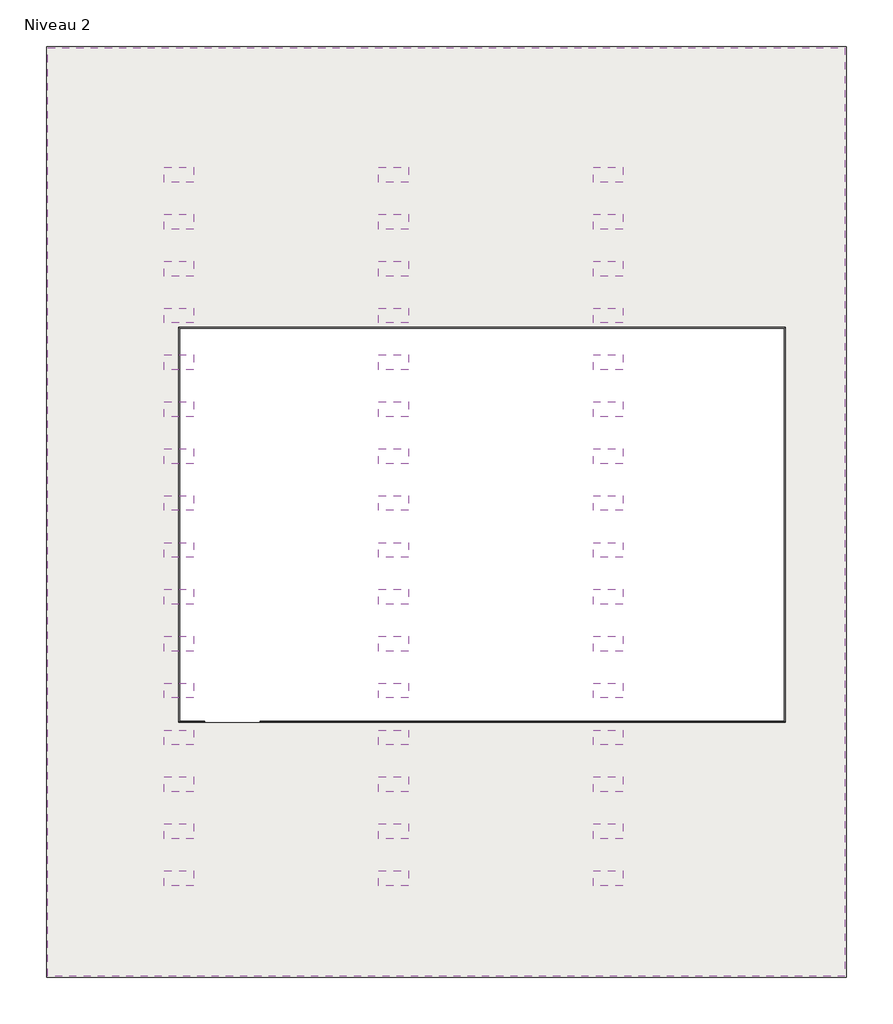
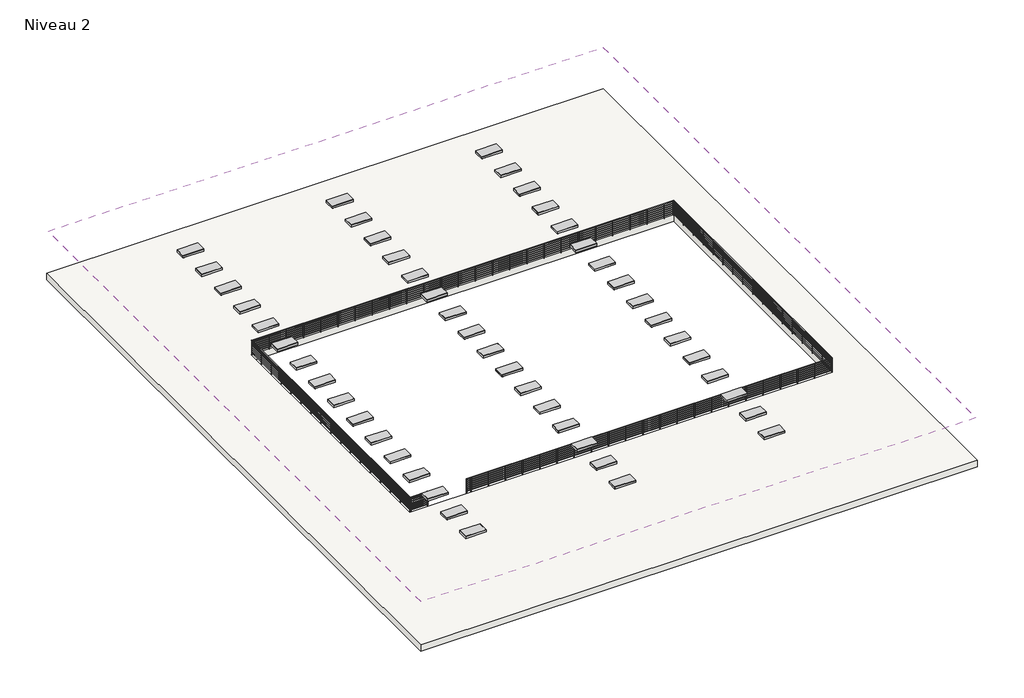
# One storey: 48 light fixtures, 1 covering, 1 railing, 1 slab.
"""IFC4 building model written with IfcOpenShell, lengths in millimetres."""

from ifc_helpers import new_model, si_unit, frame, origin, place, context, project, spatial, polyline, outline, extrude, transform, mapped, element, save
from components import light_fixture_e156559b, railing_b7095c67, railing_4ebeea9c, railing_9d34a361

model = new_model("IFC4")

# Units and contexts
model_context = context("Model", 3, world=origin())
ifc_project = project(units=[si_unit("LENGTHUNIT", "METRE", prefix="MILLI")], contexts=[model_context])

# Site, building, storey
site = spatial("IfcSite", under=ifc_project)
building = spatial("IfcBuilding", under=site)
storey = spatial("IfcBuildingStorey", under=building, Name="Niveau 2", Elevation=4000.0)

# Covering
placement = place(None, origin())
element("IfcCovering", 1, ObjectType="Quadrillage 600 x 1200 mm", at=placement, inside=storey, context=model_context, shape_type="SweptSolid", body=[
    extrude(outline(polyline([(-11908.1712982, 18211.3994283), (20401.8287018, 18211.3994283), (20401.8287018, -19398.6005717), (-11908.1712982, -19398.6005717), (-11908.1712982, 18211.3994283)]), holes=[polyline([(-5996.3562653, -15130.6199607), (-7196.3562653, -15130.6199607), (-7196.3562653, -15730.6199607), (-5996.3562653, -15730.6199607), (-5996.3562653, -15130.6199607)]), polyline([(-5996.3562653, -13230.6199607), (-7196.3562653, -13230.6199607), (-7196.3562653, -13830.6199607), (-5996.3562653, -13830.6199607), (-5996.3562653, -13230.6199607)]), polyline([(-5996.3562653, 1969.3800393), (-7196.3562653, 1969.3800393), (-7196.3562653, 1369.3800393), (-5996.3562653, 1369.3800393), (-5996.3562653, 1969.3800393)]), polyline([(-5996.3562653, 69.3800393), (-7196.3562653, 69.3800393), (-7196.3562653, -530.6199607), (-5996.3562653, -530.6199607), (-5996.3562653, 69.3800393)]), polyline([(-5996.3562653, -1830.6199607), (-7196.3562653, -1830.6199607), (-7196.3562653, -2430.6199607), (-5996.3562653, -2430.6199607), (-5996.3562653, -1830.6199607)]), polyline([(-5996.3562653, -3730.6199607), (-7196.3562653, -3730.6199607), (-7196.3562653, -4330.6199607), (-5996.3562653, -4330.6199607), (-5996.3562653, -3730.6199607)]), polyline([(-5996.3562653, -5630.6199607), (-7196.3562653, -5630.6199607), (-7196.3562653, -6230.6199607), (-5996.3562653, -6230.6199607), (-5996.3562653, -5630.6199607)]), polyline([(-5996.3562653, -7530.6199607), (-7196.3562653, -7530.6199607), (-7196.3562653, -8130.6199607), (-5996.3562653, -8130.6199607), (-5996.3562653, -7530.6199607)]), polyline([(-5996.3562653, -9430.6199607), (-7196.3562653, -9430.6199607), (-7196.3562653, -10030.6199607), (-5996.3562653, -10030.6199607), (-5996.3562653, -9430.6199607)]), polyline([(-5996.3562653, -11330.6199607), (-7196.3562653, -11330.6199607), (-7196.3562653, -11930.6199607), (-5996.3562653, -11930.6199607), (-5996.3562653, -11330.6199607)]), polyline([(-5996.3562653, 5769.3800393), (-7196.3562653, 5769.3800393), (-7196.3562653, 5169.3800393), (-5996.3562653, 5169.3800393), (-5996.3562653, 5769.3800393)]), polyline([(-5996.3562653, 3869.3800393), (-7196.3562653, 3869.3800393), (-7196.3562653, 3269.3800393), (-5996.3562653, 3269.3800393), (-5996.3562653, 3869.3800393)]), polyline([(-5996.3562653, 13369.3800393), (-7196.3562653, 13369.3800393), (-7196.3562653, 12769.3800393), (-5996.3562653, 12769.3800393), (-5996.3562653, 13369.3800393)]), polyline([(-5996.3562653, 11469.3800393), (-7196.3562653, 11469.3800393), (-7196.3562653, 10869.3800393), (-5996.3562653, 10869.3800393), (-5996.3562653, 11469.3800393)]), polyline([(-5996.3562653, 9569.3800393), (-7196.3562653, 9569.3800393), (-7196.3562653, 8969.3800393), (-5996.3562653, 8969.3800393), (-5996.3562653, 9569.3800393)]), polyline([(-5996.3562653, 7669.3800393), (-7196.3562653, 7669.3800393), (-7196.3562653, 7069.3800393), (-5996.3562653, 7069.3800393), (-5996.3562653, 7669.3800393)]), polyline([(2703.6437347, -15130.6199607), (1503.6437347, -15130.6199607), (1503.6437347, -15730.6199607), (2703.6437347, -15730.6199607), (2703.6437347, -15130.6199607)]), polyline([(2703.6437347, -13230.6199607), (1503.6437347, -13230.6199607), (1503.6437347, -13830.6199607), (2703.6437347, -13830.6199607), (2703.6437347, -13230.6199607)]), polyline([(2703.6437347, -11330.6199607), (1503.6437347, -11330.6199607), (1503.6437347, -11930.6199607), (2703.6437347, -11930.6199607), (2703.6437347, -11330.6199607)]), polyline([(2703.6437347, -9430.6199607), (1503.6437347, -9430.6199607), (1503.6437347, -10030.6199607), (2703.6437347, -10030.6199607), (2703.6437347, -9430.6199607)]), polyline([(2703.6437347, -7530.6199607), (1503.6437347, -7530.6199607), (1503.6437347, -8130.6199607), (2703.6437347, -8130.6199607), (2703.6437347, -7530.6199607)]), polyline([(2703.6437347, -5630.6199607), (1503.6437347, -5630.6199607), (1503.6437347, -6230.6199607), (2703.6437347, -6230.6199607), (2703.6437347, -5630.6199607)]), polyline([(2703.6437347, -3730.6199607), (1503.6437347, -3730.6199607), (1503.6437347, -4330.6199607), (2703.6437347, -4330.6199607), (2703.6437347, -3730.6199607)]), polyline([(2703.6437347, -1830.6199607), (1503.6437347, -1830.6199607), (1503.6437347, -2430.6199607), (2703.6437347, -2430.6199607), (2703.6437347, -1830.6199607)]), polyline([(2703.6437347, 69.3800393), (1503.6437347, 69.3800393), (1503.6437347, -530.6199607), (2703.6437347, -530.6199607), (2703.6437347, 69.3800393)]), polyline([(2703.6437347, 1969.3800393), (1503.6437347, 1969.3800393), (1503.6437347, 1369.3800393), (2703.6437347, 1369.3800393), (2703.6437347, 1969.3800393)]), polyline([(2703.6437347, 3869.3800393), (1503.6437347, 3869.3800393), (1503.6437347, 3269.3800393), (2703.6437347, 3269.3800393), (2703.6437347, 3869.3800393)]), polyline([(2703.6437347, 5769.3800393), (1503.6437347, 5769.3800393), (1503.6437347, 5169.3800393), (2703.6437347, 5169.3800393), (2703.6437347, 5769.3800393)]), polyline([(2703.6437347, 7669.3800393), (1503.6437347, 7669.3800393), (1503.6437347, 7069.3800393), (2703.6437347, 7069.3800393), (2703.6437347, 7669.3800393)]), polyline([(2703.6437347, 9569.3800393), (1503.6437347, 9569.3800393), (1503.6437347, 8969.3800393), (2703.6437347, 8969.3800393), (2703.6437347, 9569.3800393)]), polyline([(2703.6437347, 11469.3800393), (1503.6437347, 11469.3800393), (1503.6437347, 10869.3800393), (2703.6437347, 10869.3800393), (2703.6437347, 11469.3800393)]), polyline([(2703.6437347, 13369.3800393), (1503.6437347, 13369.3800393), (1503.6437347, 12769.3800393), (2703.6437347, 12769.3800393), (2703.6437347, 13369.3800393)]), polyline([(11403.6437347, -15130.6199607), (10203.6437347, -15130.6199607), (10203.6437347, -15730.6199607), (11403.6437347, -15730.6199607), (11403.6437347, -15130.6199607)]), polyline([(11403.6437347, -13230.6199607), (10203.6437347, -13230.6199607), (10203.6437347, -13830.6199607), (11403.6437347, -13830.6199607), (11403.6437347, -13230.6199607)]), polyline([(11403.6437347, -11330.6199607), (10203.6437347, -11330.6199607), (10203.6437347, -11930.6199607), (11403.6437347, -11930.6199607), (11403.6437347, -11330.6199607)]), polyline([(11403.6437347, -9430.6199607), (10203.6437347, -9430.6199607), (10203.6437347, -10030.6199607), (11403.6437347, -10030.6199607), (11403.6437347, -9430.6199607)]), polyline([(11403.6437347, -7530.6199607), (10203.6437347, -7530.6199607), (10203.6437347, -8130.6199607), (11403.6437347, -8130.6199607), (11403.6437347, -7530.6199607)]), polyline([(11403.6437347, -5630.6199607), (10203.6437347, -5630.6199607), (10203.6437347, -6230.6199607), (11403.6437347, -6230.6199607), (11403.6437347, -5630.6199607)]), polyline([(11403.6437347, -3730.6199607), (10203.6437347, -3730.6199607), (10203.6437347, -4330.6199607), (11403.6437347, -4330.6199607), (11403.6437347, -3730.6199607)]), polyline([(11403.6437347, -1830.6199607), (10203.6437347, -1830.6199607), (10203.6437347, -2430.6199607), (11403.6437347, -2430.6199607), (11403.6437347, -1830.6199607)]), polyline([(11403.6437347, 69.3800393), (10203.6437347, 69.3800393), (10203.6437347, -530.6199607), (11403.6437347, -530.6199607), (11403.6437347, 69.3800393)]), polyline([(11403.6437347, 1969.3800393), (10203.6437347, 1969.3800393), (10203.6437347, 1369.3800393), (11403.6437347, 1369.3800393), (11403.6437347, 1969.3800393)]), polyline([(11403.6437347, 3869.3800393), (10203.6437347, 3869.3800393), (10203.6437347, 3269.3800393), (11403.6437347, 3269.3800393), (11403.6437347, 3869.3800393)]), polyline([(11403.6437347, 5769.3800393), (10203.6437347, 5769.3800393), (10203.6437347, 5169.3800393), (11403.6437347, 5169.3800393), (11403.6437347, 5769.3800393)]), polyline([(11403.6437347, 7669.3800393), (10203.6437347, 7669.3800393), (10203.6437347, 7069.3800393), (11403.6437347, 7069.3800393), (11403.6437347, 7669.3800393)]), polyline([(11403.6437347, 9569.3800393), (10203.6437347, 9569.3800393), (10203.6437347, 8969.3800393), (11403.6437347, 8969.3800393), (11403.6437347, 9569.3800393)]), polyline([(11403.6437347, 11469.3800393), (10203.6437347, 11469.3800393), (10203.6437347, 10869.3800393), (11403.6437347, 10869.3800393), (11403.6437347, 11469.3800393)]), polyline([(11403.6437347, 13369.3800393), (10203.6437347, 13369.3800393), (10203.6437347, 12769.3800393), (11403.6437347, 12769.3800393), (11403.6437347, 13369.3800393)])]), frame((0.0, 0.0, 6600.0), z_axis=(0.0, 0.0, 1.0), x_axis=(1.0, 0.0, 0.0)), (0.0, 0.0, 1.0), 52.0),
])

# Light fixtures
light_fixture_shape = light_fixture_e156559b(model_context)
element("IfcLightFixture", 2, ObjectType="M_Encastré-Rectangulaire parabolique : 0600 x 1200 mm (2 lampes)", at=placement, inside=storey, context=model_context, shape_type="MappedRepresentation", body=[
    mapped(light_fixture_shape, transform((-6577.6527637, -15371.1540286, 4161.6), x_axis=(1.0, 0.0, 0.0), y_axis=(0.0, 1.0, 0.0), z_axis=(0.0, 0.0, 1.0))),
])
element("IfcLightFixture", 3, ObjectType="M_Encastré-Rectangulaire parabolique : 0600 x 1200 mm (2 lampes)", at=placement, inside=storey, context=model_context, shape_type="MappedRepresentation", body=[
    mapped(light_fixture_shape, transform((-6577.6527637, -13471.1540286, 4161.6), x_axis=(1.0, 0.0, 0.0), y_axis=(0.0, 1.0, 0.0), z_axis=(0.0, 0.0, 1.0))),
])
element("IfcLightFixture", 4, ObjectType="M_Encastré-Rectangulaire parabolique : 0600 x 1200 mm (2 lampes)", at=placement, inside=storey, context=model_context, shape_type="MappedRepresentation", body=[
    mapped(light_fixture_shape, transform((-6577.6527637, -11571.1540286, 4161.6), x_axis=(1.0, 0.0, 0.0), y_axis=(0.0, 1.0, 0.0), z_axis=(0.0, 0.0, 1.0))),
])
element("IfcLightFixture", 5, ObjectType="M_Encastré-Rectangulaire parabolique : 0600 x 1200 mm (2 lampes)", at=placement, inside=storey, context=model_context, shape_type="MappedRepresentation", body=[
    mapped(light_fixture_shape, transform((-6577.6527637, -9671.1540286, 4161.6), x_axis=(1.0, 0.0, 0.0), y_axis=(0.0, 1.0, 0.0), z_axis=(0.0, 0.0, 1.0))),
])
element("IfcLightFixture", 6, ObjectType="M_Encastré-Rectangulaire parabolique : 0600 x 1200 mm (2 lampes)", at=placement, inside=storey, context=model_context, shape_type="MappedRepresentation", body=[
    mapped(light_fixture_shape, transform((-6577.6527637, -7771.1540286, 4161.6), x_axis=(1.0, 0.0, 0.0), y_axis=(0.0, 1.0, 0.0), z_axis=(0.0, 0.0, 1.0))),
])
element("IfcLightFixture", 7, ObjectType="M_Encastré-Rectangulaire parabolique : 0600 x 1200 mm (2 lampes)", at=placement, inside=storey, context=model_context, shape_type="MappedRepresentation", body=[
    mapped(light_fixture_shape, transform((-6577.6527637, -5871.1540286, 4161.6), x_axis=(1.0, 0.0, 0.0), y_axis=(0.0, 1.0, 0.0), z_axis=(0.0, 0.0, 1.0))),
])
element("IfcLightFixture", 8, ObjectType="M_Encastré-Rectangulaire parabolique : 0600 x 1200 mm (2 lampes)", at=placement, inside=storey, context=model_context, shape_type="MappedRepresentation", body=[
    mapped(light_fixture_shape, transform((-6577.6527637, -3971.1540286, 4161.6), x_axis=(1.0, 0.0, 0.0), y_axis=(0.0, 1.0, 0.0), z_axis=(0.0, 0.0, 1.0))),
])
element("IfcLightFixture", 9, ObjectType="M_Encastré-Rectangulaire parabolique : 0600 x 1200 mm (2 lampes)", at=placement, inside=storey, context=model_context, shape_type="MappedRepresentation", body=[
    mapped(light_fixture_shape, transform((-6577.6527637, -2071.1540286, 4161.6), x_axis=(1.0, 0.0, 0.0), y_axis=(0.0, 1.0, 0.0), z_axis=(0.0, 0.0, 1.0))),
])
element("IfcLightFixture", 10, ObjectType="M_Encastré-Rectangulaire parabolique : 0600 x 1200 mm (2 lampes)", at=placement, inside=storey, context=model_context, shape_type="MappedRepresentation", body=[
    mapped(light_fixture_shape, transform((-6577.6527637, -171.1540286, 4161.6), x_axis=(1.0, 0.0, 0.0), y_axis=(0.0, 1.0, 0.0), z_axis=(0.0, 0.0, 1.0))),
])
element("IfcLightFixture", 11, ObjectType="M_Encastré-Rectangulaire parabolique : 0600 x 1200 mm (2 lampes)", at=placement, inside=storey, context=model_context, shape_type="MappedRepresentation", body=[
    mapped(light_fixture_shape, transform((-6577.6527637, 1728.8459714, 4161.6), x_axis=(1.0, 0.0, 0.0), y_axis=(0.0, 1.0, 0.0), z_axis=(0.0, 0.0, 1.0))),
])
element("IfcLightFixture", 12, ObjectType="M_Encastré-Rectangulaire parabolique : 0600 x 1200 mm (2 lampes)", at=placement, inside=storey, context=model_context, shape_type="MappedRepresentation", body=[
    mapped(light_fixture_shape, transform((-6577.6527637, 3628.8459714, 4161.6), x_axis=(1.0, 0.0, 0.0), y_axis=(0.0, 1.0, 0.0), z_axis=(0.0, 0.0, 1.0))),
])
element("IfcLightFixture", 13, ObjectType="M_Encastré-Rectangulaire parabolique : 0600 x 1200 mm (2 lampes)", at=placement, inside=storey, context=model_context, shape_type="MappedRepresentation", body=[
    mapped(light_fixture_shape, transform((-6577.6527637, 5528.8459714, 4161.6), x_axis=(1.0, 0.0, 0.0), y_axis=(0.0, 1.0, 0.0), z_axis=(0.0, 0.0, 1.0))),
])
element("IfcLightFixture", 14, ObjectType="M_Encastré-Rectangulaire parabolique : 0600 x 1200 mm (2 lampes)", at=placement, inside=storey, context=model_context, shape_type="MappedRepresentation", body=[
    mapped(light_fixture_shape, transform((-6577.6527637, 7428.8459714, 4161.6), x_axis=(1.0, 0.0, 0.0), y_axis=(0.0, 1.0, 0.0), z_axis=(0.0, 0.0, 1.0))),
])
element("IfcLightFixture", 15, ObjectType="M_Encastré-Rectangulaire parabolique : 0600 x 1200 mm (2 lampes)", at=placement, inside=storey, context=model_context, shape_type="MappedRepresentation", body=[
    mapped(light_fixture_shape, transform((-6577.6527637, 9328.8459714, 4161.6), x_axis=(1.0, 0.0, 0.0), y_axis=(0.0, 1.0, 0.0), z_axis=(0.0, 0.0, 1.0))),
])
element("IfcLightFixture", 16, ObjectType="M_Encastré-Rectangulaire parabolique : 0600 x 1200 mm (2 lampes)", at=placement, inside=storey, context=model_context, shape_type="MappedRepresentation", body=[
    mapped(light_fixture_shape, transform((-6577.6527637, 11228.8459714, 4161.6), x_axis=(1.0, 0.0, 0.0), y_axis=(0.0, 1.0, 0.0), z_axis=(0.0, 0.0, 1.0))),
])
element("IfcLightFixture", 17, ObjectType="M_Encastré-Rectangulaire parabolique : 0600 x 1200 mm (2 lampes)", at=placement, inside=storey, context=model_context, shape_type="MappedRepresentation", body=[
    mapped(light_fixture_shape, transform((-6577.6527637, 13128.8459714, 4161.6), x_axis=(1.0, 0.0, 0.0), y_axis=(0.0, 1.0, 0.0), z_axis=(0.0, 0.0, 1.0))),
])
element("IfcLightFixture", 18, ObjectType="M_Encastré-Rectangulaire parabolique : 0600 x 1200 mm (2 lampes)", at=placement, inside=storey, context=model_context, shape_type="MappedRepresentation", body=[
    mapped(light_fixture_shape, transform((2122.3472363, -15371.1540286, 4161.6), x_axis=(1.0, 0.0, 0.0), y_axis=(0.0, 1.0, 0.0), z_axis=(0.0, 0.0, 1.0))),
])
element("IfcLightFixture", 19, ObjectType="M_Encastré-Rectangulaire parabolique : 0600 x 1200 mm (2 lampes)", at=placement, inside=storey, context=model_context, shape_type="MappedRepresentation", body=[
    mapped(light_fixture_shape, transform((2122.3472363, -13471.1540286, 4161.6), x_axis=(1.0, 0.0, 0.0), y_axis=(0.0, 1.0, 0.0), z_axis=(0.0, 0.0, 1.0))),
])
element("IfcLightFixture", 20, ObjectType="M_Encastré-Rectangulaire parabolique : 0600 x 1200 mm (2 lampes)", at=placement, inside=storey, context=model_context, shape_type="MappedRepresentation", body=[
    mapped(light_fixture_shape, transform((2122.3472363, -11571.1540286, 4161.6), x_axis=(1.0, 0.0, 0.0), y_axis=(0.0, 1.0, 0.0), z_axis=(0.0, 0.0, 1.0))),
])
element("IfcLightFixture", 21, ObjectType="M_Encastré-Rectangulaire parabolique : 0600 x 1200 mm (2 lampes)", at=placement, inside=storey, context=model_context, shape_type="MappedRepresentation", body=[
    mapped(light_fixture_shape, transform((2122.3472363, -9671.1540286, 4161.6), x_axis=(1.0, 0.0, 0.0), y_axis=(0.0, 1.0, 0.0), z_axis=(0.0, 0.0, 1.0))),
])
element("IfcLightFixture", 22, ObjectType="M_Encastré-Rectangulaire parabolique : 0600 x 1200 mm (2 lampes)", at=placement, inside=storey, context=model_context, shape_type="MappedRepresentation", body=[
    mapped(light_fixture_shape, transform((2122.3472363, -7771.1540286, 4161.6), x_axis=(1.0, 0.0, 0.0), y_axis=(0.0, 1.0, 0.0), z_axis=(0.0, 0.0, 1.0))),
])
element("IfcLightFixture", 23, ObjectType="M_Encastré-Rectangulaire parabolique : 0600 x 1200 mm (2 lampes)", at=placement, inside=storey, context=model_context, shape_type="MappedRepresentation", body=[
    mapped(light_fixture_shape, transform((2122.3472363, -5871.1540286, 4161.6), x_axis=(1.0, 0.0, 0.0), y_axis=(0.0, 1.0, 0.0), z_axis=(0.0, 0.0, 1.0))),
])
element("IfcLightFixture", 24, ObjectType="M_Encastré-Rectangulaire parabolique : 0600 x 1200 mm (2 lampes)", at=placement, inside=storey, context=model_context, shape_type="MappedRepresentation", body=[
    mapped(light_fixture_shape, transform((2122.3472363, -3971.1540286, 4161.6), x_axis=(1.0, 0.0, 0.0), y_axis=(0.0, 1.0, 0.0), z_axis=(0.0, 0.0, 1.0))),
])
element("IfcLightFixture", 25, ObjectType="M_Encastré-Rectangulaire parabolique : 0600 x 1200 mm (2 lampes)", at=placement, inside=storey, context=model_context, shape_type="MappedRepresentation", body=[
    mapped(light_fixture_shape, transform((2122.3472363, -2071.1540286, 4161.6), x_axis=(1.0, 0.0, 0.0), y_axis=(0.0, 1.0, 0.0), z_axis=(0.0, 0.0, 1.0))),
])
element("IfcLightFixture", 26, ObjectType="M_Encastré-Rectangulaire parabolique : 0600 x 1200 mm (2 lampes)", at=placement, inside=storey, context=model_context, shape_type="MappedRepresentation", body=[
    mapped(light_fixture_shape, transform((2122.3472363, -171.1540286, 4161.6), x_axis=(1.0, 0.0, 0.0), y_axis=(0.0, 1.0, 0.0), z_axis=(0.0, 0.0, 1.0))),
])
element("IfcLightFixture", 27, ObjectType="M_Encastré-Rectangulaire parabolique : 0600 x 1200 mm (2 lampes)", at=placement, inside=storey, context=model_context, shape_type="MappedRepresentation", body=[
    mapped(light_fixture_shape, transform((2122.3472363, 1728.8459714, 4161.6), x_axis=(1.0, 0.0, 0.0), y_axis=(0.0, 1.0, 0.0), z_axis=(0.0, 0.0, 1.0))),
])
element("IfcLightFixture", 28, ObjectType="M_Encastré-Rectangulaire parabolique : 0600 x 1200 mm (2 lampes)", at=placement, inside=storey, context=model_context, shape_type="MappedRepresentation", body=[
    mapped(light_fixture_shape, transform((2122.3472363, 3628.8459714, 4161.6), x_axis=(1.0, 0.0, 0.0), y_axis=(0.0, 1.0, 0.0), z_axis=(0.0, 0.0, 1.0))),
])
element("IfcLightFixture", 29, ObjectType="M_Encastré-Rectangulaire parabolique : 0600 x 1200 mm (2 lampes)", at=placement, inside=storey, context=model_context, shape_type="MappedRepresentation", body=[
    mapped(light_fixture_shape, transform((2122.3472363, 5528.8459714, 4161.6), x_axis=(1.0, 0.0, 0.0), y_axis=(0.0, 1.0, 0.0), z_axis=(0.0, 0.0, 1.0))),
])
element("IfcLightFixture", 30, ObjectType="M_Encastré-Rectangulaire parabolique : 0600 x 1200 mm (2 lampes)", at=placement, inside=storey, context=model_context, shape_type="MappedRepresentation", body=[
    mapped(light_fixture_shape, transform((2122.3472363, 7428.8459714, 4161.6), x_axis=(1.0, 0.0, 0.0), y_axis=(0.0, 1.0, 0.0), z_axis=(0.0, 0.0, 1.0))),
])
element("IfcLightFixture", 31, ObjectType="M_Encastré-Rectangulaire parabolique : 0600 x 1200 mm (2 lampes)", at=placement, inside=storey, context=model_context, shape_type="MappedRepresentation", body=[
    mapped(light_fixture_shape, transform((2122.3472363, 9328.8459714, 4161.6), x_axis=(1.0, 0.0, 0.0), y_axis=(0.0, 1.0, 0.0), z_axis=(0.0, 0.0, 1.0))),
])
element("IfcLightFixture", 32, ObjectType="M_Encastré-Rectangulaire parabolique : 0600 x 1200 mm (2 lampes)", at=placement, inside=storey, context=model_context, shape_type="MappedRepresentation", body=[
    mapped(light_fixture_shape, transform((2122.3472363, 11228.8459714, 4161.6), x_axis=(1.0, 0.0, 0.0), y_axis=(0.0, 1.0, 0.0), z_axis=(0.0, 0.0, 1.0))),
])
element("IfcLightFixture", 33, ObjectType="M_Encastré-Rectangulaire parabolique : 0600 x 1200 mm (2 lampes)", at=placement, inside=storey, context=model_context, shape_type="MappedRepresentation", body=[
    mapped(light_fixture_shape, transform((2122.3472363, 13128.8459714, 4161.6), x_axis=(1.0, 0.0, 0.0), y_axis=(0.0, 1.0, 0.0), z_axis=(0.0, 0.0, 1.0))),
])
element("IfcLightFixture", 34, ObjectType="M_Encastré-Rectangulaire parabolique : 0600 x 1200 mm (2 lampes)", at=placement, inside=storey, context=model_context, shape_type="MappedRepresentation", body=[
    mapped(light_fixture_shape, transform((10822.3472363, -15371.1540286, 4161.6), x_axis=(1.0, 0.0, 0.0), y_axis=(0.0, 1.0, 0.0), z_axis=(0.0, 0.0, 1.0))),
])
element("IfcLightFixture", 35, ObjectType="M_Encastré-Rectangulaire parabolique : 0600 x 1200 mm (2 lampes)", at=placement, inside=storey, context=model_context, shape_type="MappedRepresentation", body=[
    mapped(light_fixture_shape, transform((10822.3472363, -13471.1540286, 4161.6), x_axis=(1.0, 0.0, 0.0), y_axis=(0.0, 1.0, 0.0), z_axis=(0.0, 0.0, 1.0))),
])
element("IfcLightFixture", 36, ObjectType="M_Encastré-Rectangulaire parabolique : 0600 x 1200 mm (2 lampes)", at=placement, inside=storey, context=model_context, shape_type="MappedRepresentation", body=[
    mapped(light_fixture_shape, transform((10822.3472363, -11571.1540286, 4161.6), x_axis=(1.0, 0.0, 0.0), y_axis=(0.0, 1.0, 0.0), z_axis=(0.0, 0.0, 1.0))),
])
element("IfcLightFixture", 37, ObjectType="M_Encastré-Rectangulaire parabolique : 0600 x 1200 mm (2 lampes)", at=placement, inside=storey, context=model_context, shape_type="MappedRepresentation", body=[
    mapped(light_fixture_shape, transform((10822.3472363, -9671.1540286, 4161.6), x_axis=(1.0, 0.0, 0.0), y_axis=(0.0, 1.0, 0.0), z_axis=(0.0, 0.0, 1.0))),
])
element("IfcLightFixture", 38, ObjectType="M_Encastré-Rectangulaire parabolique : 0600 x 1200 mm (2 lampes)", at=placement, inside=storey, context=model_context, shape_type="MappedRepresentation", body=[
    mapped(light_fixture_shape, transform((10822.3472363, -7771.1540286, 4161.6), x_axis=(1.0, 0.0, 0.0), y_axis=(0.0, 1.0, 0.0), z_axis=(0.0, 0.0, 1.0))),
])
element("IfcLightFixture", 39, ObjectType="M_Encastré-Rectangulaire parabolique : 0600 x 1200 mm (2 lampes)", at=placement, inside=storey, context=model_context, shape_type="MappedRepresentation", body=[
    mapped(light_fixture_shape, transform((10822.3472363, -5871.1540286, 4161.6), x_axis=(1.0, 0.0, 0.0), y_axis=(0.0, 1.0, 0.0), z_axis=(0.0, 0.0, 1.0))),
])
element("IfcLightFixture", 40, ObjectType="M_Encastré-Rectangulaire parabolique : 0600 x 1200 mm (2 lampes)", at=placement, inside=storey, context=model_context, shape_type="MappedRepresentation", body=[
    mapped(light_fixture_shape, transform((10822.3472363, -3971.1540286, 4161.6), x_axis=(1.0, 0.0, 0.0), y_axis=(0.0, 1.0, 0.0), z_axis=(0.0, 0.0, 1.0))),
])
element("IfcLightFixture", 41, ObjectType="M_Encastré-Rectangulaire parabolique : 0600 x 1200 mm (2 lampes)", at=placement, inside=storey, context=model_context, shape_type="MappedRepresentation", body=[
    mapped(light_fixture_shape, transform((10822.3472363, -2071.1540286, 4161.6), x_axis=(1.0, 0.0, 0.0), y_axis=(0.0, 1.0, 0.0), z_axis=(0.0, 0.0, 1.0))),
])
element("IfcLightFixture", 42, ObjectType="M_Encastré-Rectangulaire parabolique : 0600 x 1200 mm (2 lampes)", at=placement, inside=storey, context=model_context, shape_type="MappedRepresentation", body=[
    mapped(light_fixture_shape, transform((10822.3472363, -171.1540286, 4161.6), x_axis=(1.0, 0.0, 0.0), y_axis=(0.0, 1.0, 0.0), z_axis=(0.0, 0.0, 1.0))),
])
element("IfcLightFixture", 43, ObjectType="M_Encastré-Rectangulaire parabolique : 0600 x 1200 mm (2 lampes)", at=placement, inside=storey, context=model_context, shape_type="MappedRepresentation", body=[
    mapped(light_fixture_shape, transform((10822.3472363, 1728.8459714, 4161.6), x_axis=(1.0, 0.0, 0.0), y_axis=(0.0, 1.0, 0.0), z_axis=(0.0, 0.0, 1.0))),
])
element("IfcLightFixture", 44, ObjectType="M_Encastré-Rectangulaire parabolique : 0600 x 1200 mm (2 lampes)", at=placement, inside=storey, context=model_context, shape_type="MappedRepresentation", body=[
    mapped(light_fixture_shape, transform((10822.3472363, 3628.8459714, 4161.6), x_axis=(1.0, 0.0, 0.0), y_axis=(0.0, 1.0, 0.0), z_axis=(0.0, 0.0, 1.0))),
])
element("IfcLightFixture", 45, ObjectType="M_Encastré-Rectangulaire parabolique : 0600 x 1200 mm (2 lampes)", at=placement, inside=storey, context=model_context, shape_type="MappedRepresentation", body=[
    mapped(light_fixture_shape, transform((10822.3472363, 5528.8459714, 4161.6), x_axis=(1.0, 0.0, 0.0), y_axis=(0.0, 1.0, 0.0), z_axis=(0.0, 0.0, 1.0))),
])
element("IfcLightFixture", 46, ObjectType="M_Encastré-Rectangulaire parabolique : 0600 x 1200 mm (2 lampes)", at=placement, inside=storey, context=model_context, shape_type="MappedRepresentation", body=[
    mapped(light_fixture_shape, transform((10822.3472363, 7428.8459714, 4161.6), x_axis=(1.0, 0.0, 0.0), y_axis=(0.0, 1.0, 0.0), z_axis=(0.0, 0.0, 1.0))),
])
element("IfcLightFixture", 47, ObjectType="M_Encastré-Rectangulaire parabolique : 0600 x 1200 mm (2 lampes)", at=placement, inside=storey, context=model_context, shape_type="MappedRepresentation", body=[
    mapped(light_fixture_shape, transform((10822.3472363, 9328.8459714, 4161.6), x_axis=(1.0, 0.0, 0.0), y_axis=(0.0, 1.0, 0.0), z_axis=(0.0, 0.0, 1.0))),
])
element("IfcLightFixture", 48, ObjectType="M_Encastré-Rectangulaire parabolique : 0600 x 1200 mm (2 lampes)", at=placement, inside=storey, context=model_context, shape_type="MappedRepresentation", body=[
    mapped(light_fixture_shape, transform((10822.3472363, 11228.8459714, 4161.6), x_axis=(1.0, 0.0, 0.0), y_axis=(0.0, 1.0, 0.0), z_axis=(0.0, 0.0, 1.0))),
])
element("IfcLightFixture", 49, ObjectType="M_Encastré-Rectangulaire parabolique : 0600 x 1200 mm (2 lampes)", at=placement, inside=storey, context=model_context, shape_type="MappedRepresentation", body=[
    mapped(light_fixture_shape, transform((10822.3472363, 13128.8459714, 4161.6), x_axis=(1.0, 0.0, 0.0), y_axis=(0.0, 1.0, 0.0), z_axis=(0.0, 0.0, 1.0))),
])

# Railing
railing_shape = railing_b7095c67(model_context)
railing_2_shape = railing_4ebeea9c(model_context)
railing_3_shape = railing_9d34a361(model_context)
element("IfcRailing", 50, ObjectType="Tuyau 900\xa0mm", at=placement, inside=storey, context=model_context, shape_type="MappedRepresentation", body=[
    mapped(railing_shape, transform((0.0, 0.0, 0.0), x_axis=(1.0, 0.0, 0.0), y_axis=(0.0, 1.0, 0.0), z_axis=(0.0, 0.0, 1.0))),
    mapped(railing_2_shape, transform((0.0, 0.0, 0.0), x_axis=(1.0, 0.0, 0.0), y_axis=(0.0, 1.0, 0.0), z_axis=(0.0, 0.0, 1.0))),
    mapped(railing_3_shape, transform((0.0, 0.0, 0.0), x_axis=(1.0, 0.0, 0.0), y_axis=(0.0, 1.0, 0.0), z_axis=(0.0, 0.0, 1.0))),
])

# Slab
element("IfcSlab", 51, ObjectType="Sol générique - 400\xa0mm", at=placement, inside=storey, context=model_context, shape_type="SweptSolid", body=[
    extrude(outline(polyline([(20459.8287018, 18269.3994283), (20459.8287018, -19456.6005717), (-11966.1712982, -19456.6005717), (-11966.1712982, 18269.3994283), (20459.8287018, 18269.3994283)]), holes=[polyline([(17990.862022, 6890.9159601), (-6609.137978, 6890.9159601), (-6609.137978, -9109.0840399), (17990.862022, -9109.0840399), (17990.862022, 6890.9159601)])]), frame((0.0, 0.0, 3600.0), z_axis=(0.0, 0.0, 1.0), x_axis=(1.0, 0.0, 0.0)), (0.0, 0.0, 1.0), 400.0),
])

save(model, "model.ifc")
